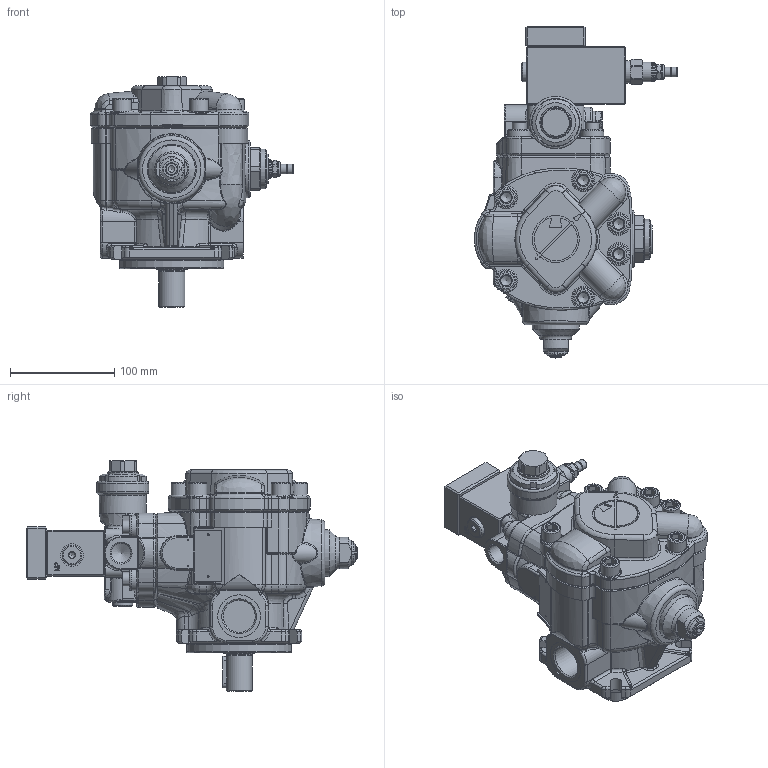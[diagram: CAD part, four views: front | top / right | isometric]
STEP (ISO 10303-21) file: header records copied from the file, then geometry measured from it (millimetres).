
FILE_DESCRIPTION(/* description */ (''),/* implementation_level */ '2;1');
FILE_NAME(/* name */ 'W:\Tecnico\Archivio\Berarma\Dimensioni Pompe\3D Export\Montaggio 3D semplificato\PLP-PHP 1\PHP 1 PCS002.stp',/* time_stamp */ '2018-10-09T14:59:48+02:00',/* author */ ('marcop'),/* organization */ (''),/* preprocessor_version */ 'ST-DEVELOPER v17',/* originating_system */ 'Autodesk Inventor 2018',/* authorisation */ '');
FILE_SCHEMA (('AUTOMOTIVE_DESIGN { 1 0 10303 214 3 1 1 }'));
Products named in the file (1): PLP-PHP 1_Shrinkwrap_1
Bounding box: 194.5 x 317.7 x 221 mm (x, y, z)
Volume: 2646124.6 mm3; surface area: 294547.6 mm2
Topology: 2 solids, 2 shells, 2218 faces, 5721 edges, 3574 vertices
Faces by surface type: plane 855, cylinder 548, bspline 363, torus 232, cone 197, sphere 23
Full cylindrical faces by diameter (mm): 1.7 x4, 2.5 x3, 4 x2, 6 x2, 6.5 x1, 7.2 x1, 7.671 x2, 8 x1, 8.5 x4, 9 x4, 9.347 x2, 9.5 x1, 10 x1, 11.445 x2, 12 x4, 13 x4, 13.487 x1, 13.5 x1, 13.767 x2, 14 x3, 14.63 x1, 15 x1, 15.5 x1, 16 x2, 17.399 x1, 17.5 x1, 17.78 x1, 18 x7, 18.631 x1, 18.974 x2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
Entity records: 81801 total; most frequent: CARTESIAN_POINT 28092, ORIENTED_EDGE 11350, DIRECTION 10120, EDGE_CURVE 5675, AXIS2_PLACEMENT_3D 3939, VERTEX_POINT 3574, EDGE_LOOP 2346, LINE 2242
